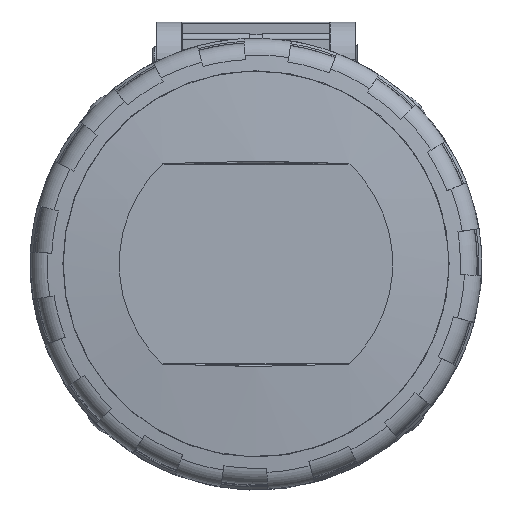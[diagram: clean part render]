
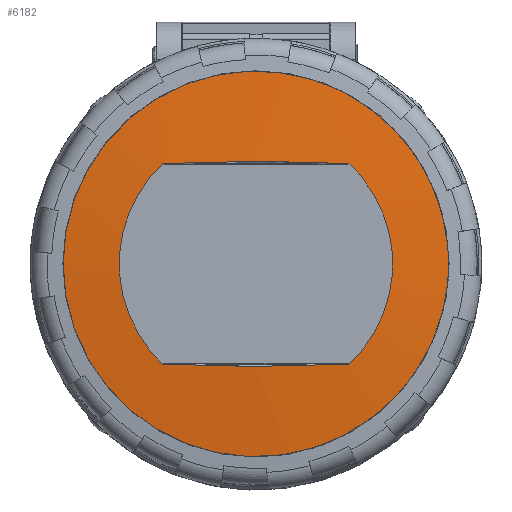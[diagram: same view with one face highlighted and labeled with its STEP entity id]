
A CAD part, top view. The second image highlights one B-rep face of the part: STEP entity #6182.
In plain terms, the highlighted spherical face has radius 256 mm.
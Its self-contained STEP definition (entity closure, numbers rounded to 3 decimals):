
#42=SPHERICAL_SURFACE('',#17438,256.);
#4693=FACE_BOUND('',#7476,.T.);
#4694=FACE_BOUND('',#7477,.T.);
#5596=CIRCLE('',#17437,31.1);
#6182=ADVANCED_FACE('',(#4693,#4694),#42,.T.);
#7476=EDGE_LOOP('',(#10535,#10536,#10537,#10538));
#7477=EDGE_LOOP('',(#10539));
#7799=B_SPLINE_CURVE_WITH_KNOTS('',3,(#32874,#32875,#32876,#32877),
 .UNSPECIFIED.,.F.,.F.,(4,4),(0.,1.),.UNSPECIFIED.);
#7801=B_SPLINE_CURVE_WITH_KNOTS('',3,(#32922,#32923,#32924,#32925,#32926,
#32927),.UNSPECIFIED.,.F.,.F.,(4,2,4),(0.,0.5,1.),.UNSPECIFIED.);
#7804=B_SPLINE_CURVE_WITH_KNOTS('',3,(#33004,#33005,#33006,#33007,#33008,
#33009),.UNSPECIFIED.,.F.,.F.,(4,2,4),(0.,0.5,1.),.UNSPECIFIED.);
#7805=B_SPLINE_CURVE_WITH_KNOTS('',3,(#33012,#33013,#33014,#33015),
 .UNSPECIFIED.,.F.,.F.,(4,4),(0.,1.),.UNSPECIFIED.);
#10535=ORIENTED_EDGE('',*,*,#14283,.F.);
#10536=ORIENTED_EDGE('',*,*,#14285,.F.);
#10537=ORIENTED_EDGE('',*,*,#14279,.F.);
#10538=ORIENTED_EDGE('',*,*,#14276,.F.);
#10539=ORIENTED_EDGE('',*,*,#14287,.T.);
#12259=VERTEX_POINT('',#32872);
#12261=VERTEX_POINT('',#32878);
#12263=VERTEX_POINT('',#32928);
#12266=VERTEX_POINT('',#33003);
#12267=VERTEX_POINT('',#33021);
#14276=EDGE_CURVE('',#12259,#12261,#7799,.T.);
#14279=EDGE_CURVE('',#12261,#12263,#7801,.T.);
#14283=EDGE_CURVE('',#12266,#12259,#7804,.T.);
#14285=EDGE_CURVE('',#12263,#12266,#7805,.T.);
#14287=EDGE_CURVE('',#12267,#12267,#5596,.T.);
#17437=AXIS2_PLACEMENT_3D('',#33020,#20758,#20759);
#17438=AXIS2_PLACEMENT_3D('',#33022,#20760,#20761);
#20758=DIRECTION('',(0.,0.,1.));
#20759=DIRECTION('',(0.,-1.,0.));
#20760=DIRECTION('',(0.,-1.,0.));
#20761=DIRECTION('',(1.,0.,0.));
#32872=CARTESIAN_POINT('',(14.978,20.1,48.986));
#32874=CARTESIAN_POINT('',(14.978,20.1,48.986));
#32875=CARTESIAN_POINT('',(5.01,20.567,49.542));
#32876=CARTESIAN_POINT('',(-5.011,20.567,49.542));
#32877=CARTESIAN_POINT('',(-14.98,20.1,48.986));
#32878=CARTESIAN_POINT('',(-14.98,20.1,48.986));
#32922=CARTESIAN_POINT('',(-14.98,20.1,48.986));
#32923=CARTESIAN_POINT('',(-19.43,15.976,48.986));
#32924=CARTESIAN_POINT('',(-22.035,10.008,48.986));
#32925=CARTESIAN_POINT('',(-22.035,-2.126,48.986));
#32926=CARTESIAN_POINT('',(-19.431,-8.093,48.986));
#32927=CARTESIAN_POINT('',(-14.98,-12.219,48.986));
#32928=CARTESIAN_POINT('',(-14.98,-12.219,48.986));
#33003=CARTESIAN_POINT('',(14.978,-12.219,48.986));
#33004=CARTESIAN_POINT('',(14.978,-12.219,48.986));
#33005=CARTESIAN_POINT('',(19.428,-8.094,48.986));
#33006=CARTESIAN_POINT('',(22.033,-2.126,48.986));
#33007=CARTESIAN_POINT('',(22.033,10.008,48.986));
#33008=CARTESIAN_POINT('',(19.429,15.975,48.986));
#33009=CARTESIAN_POINT('',(14.978,20.1,48.986));
#33012=CARTESIAN_POINT('',(-14.98,-12.219,48.986));
#33013=CARTESIAN_POINT('',(-5.011,-12.685,49.542));
#33014=CARTESIAN_POINT('',(5.01,-12.685,49.542));
#33015=CARTESIAN_POINT('',(14.978,-12.219,48.986));
#33020=CARTESIAN_POINT('',(-0.001,3.941,48.04));
#33021=CARTESIAN_POINT('',(-0.001,-27.159,48.04));
#33022=CARTESIAN_POINT('',(-0.001,3.941,-206.064));
